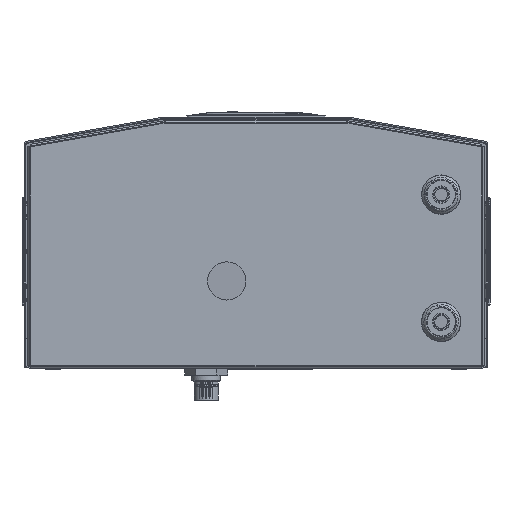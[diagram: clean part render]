
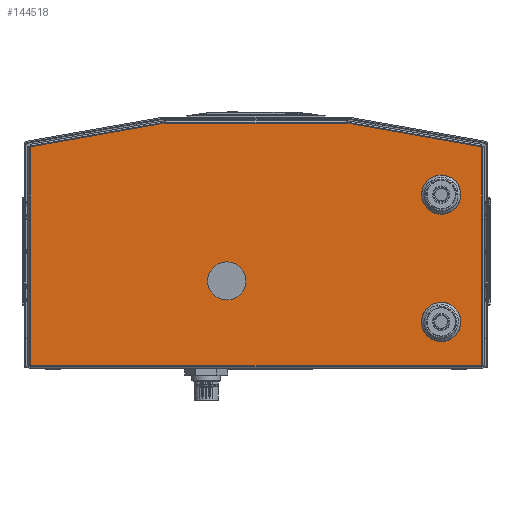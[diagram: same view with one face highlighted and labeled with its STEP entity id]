
A CAD part, front view. The second image highlights one B-rep face of the part: STEP entity #144518.
In plain terms, the highlighted planar face has unit normal (0, -1, 0).
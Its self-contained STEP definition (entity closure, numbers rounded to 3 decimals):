
#411 = DIRECTION ( 'NONE',  ( 0., 0., -1. ) ) ;
#2844 = VERTEX_POINT ( 'NONE', #69826 ) ;
#3081 = CARTESIAN_POINT ( 'NONE',  ( 194.79, -718.922, 0.787 ) ) ;
#8561 = VERTEX_POINT ( 'NONE', #3081 ) ;
#10794 = ORIENTED_EDGE ( 'NONE', *, *, #82602, .T. ) ;
#11460 = AXIS2_PLACEMENT_3D ( 'NONE', #69127, #179325, #84995 ) ;
#11906 = CARTESIAN_POINT ( 'NONE',  ( -78.607, -718.922, 210.368 ) ) ;
#12725 = VECTOR ( 'NONE', #107728, 1000. ) ;
#13072 = DIRECTION ( 'NONE',  ( -1., 0., 0. ) ) ;
#13189 = CARTESIAN_POINT ( 'NONE',  ( 194.79, -718.922, 0.787 ) ) ;
#15468 = CIRCLE ( 'NONE', #11460, 12.7 ) ;
#15564 = EDGE_LOOP ( 'NONE', ( #68278, #59619, #117425, #169448, #106210, #161923 ) ) ;
#16869 = CARTESIAN_POINT ( 'NONE',  ( 159.975, -718.922, 25.878 ) ) ;
#18679 = VECTOR ( 'NONE', #411, 1000. ) ;
#20139 = DIRECTION ( 'NONE',  ( 0., -1., 0. ) ) ;
#23602 = LINE ( 'NONE', #47361, #18679 ) ;
#25297 = CARTESIAN_POINT ( 'NONE',  ( 159.975, -718.922, 148.578 ) ) ;
#26598 = EDGE_CURVE ( 'NONE', #130406, #34125, #15468, .T. ) ;
#29815 = CIRCLE ( 'NONE', #204272, 12.7 ) ;
#32330 = VECTOR ( 'NONE', #13072, 1000. ) ;
#32351 = DIRECTION ( 'NONE',  ( 0., 1., 0. ) ) ;
#34125 = VERTEX_POINT ( 'NONE', #134713 ) ;
#37870 = FACE_BOUND ( 'NONE', #179755, .T. ) ;
#39218 = VECTOR ( 'NONE', #139427, 1000. ) ;
#41220 = DIRECTION ( 'NONE',  ( 0., 0., -1. ) ) ;
#44522 = VERTEX_POINT ( 'NONE', #47990 ) ;
#44740 = CIRCLE ( 'NONE', #139388, 16.51 ) ;
#46391 = VERTEX_POINT ( 'NONE', #16869 ) ;
#47361 = CARTESIAN_POINT ( 'NONE',  ( -194.79, -718.922, 189.89 ) ) ;
#47990 = CARTESIAN_POINT ( 'NONE',  ( 159.975, -718.922, 51.278 ) ) ;
#50486 = CARTESIAN_POINT ( 'NONE',  ( -194.79, -718.922, 189.882 ) ) ;
#51309 = AXIS2_PLACEMENT_3D ( 'NONE', #114601, #20139, #130395 ) ;
#56639 = AXIS2_PLACEMENT_3D ( 'NONE', #126740, #32351, #142607 ) ;
#56904 = EDGE_CURVE ( 'NONE', #34125, #130406, #121401, .T. ) ;
#59619 = ORIENTED_EDGE ( 'NONE', *, *, #106999, .T. ) ;
#68278 = ORIENTED_EDGE ( 'NONE', *, *, #97338, .T. ) ;
#69127 = CARTESIAN_POINT ( 'NONE',  ( 159.975, -718.922, 148.578 ) ) ;
#69826 = CARTESIAN_POINT ( 'NONE',  ( -25.247, -718.922, 90.49 ) ) ;
#71370 = VERTEX_POINT ( 'NONE', #50486 ) ;
#73476 = LINE ( 'NONE', #196409, #152299 ) ;
#75927 = CARTESIAN_POINT ( 'NONE',  ( -197., -718.922, 0.787 ) ) ;
#79848 = FACE_BOUND ( 'NONE', #135171, .T. ) ;
#82602 = EDGE_CURVE ( 'NONE', #2844, #108445, #44740, .T. ) ;
#83485 = ORIENTED_EDGE ( 'NONE', *, *, #129094, .F. ) ;
#84995 = DIRECTION ( 'NONE',  ( 0., 0., -1. ) ) ;
#85569 = DIRECTION ( 'NONE',  ( 0., 1., 0. ) ) ;
#85981 = EDGE_CURVE ( 'NONE', #87099, #164573, #158114, .T. ) ;
#86245 = DIRECTION ( 'NONE',  ( -0.985, 0., 0.174 ) ) ;
#87099 = VERTEX_POINT ( 'NONE', #113976 ) ;
#90039 = CARTESIAN_POINT ( 'NONE',  ( 159.975, -718.922, 38.578 ) ) ;
#91432 = AXIS2_PLACEMENT_3D ( 'NONE', #25297, #135581, #41220 ) ;
#91897 = CARTESIAN_POINT ( 'NONE',  ( -197., -718.922, 212.578 ) ) ;
#92272 = EDGE_CURVE ( 'NONE', #71370, #191097, #23602, .T. ) ;
#93273 = LINE ( 'NONE', #75927, #182022 ) ;
#97338 = EDGE_CURVE ( 'NONE', #8561, #113716, #133617, .T. ) ;
#105874 = DIRECTION ( 'NONE',  ( 0., 0., -1. ) ) ;
#106210 = ORIENTED_EDGE ( 'NONE', *, *, #92272, .T. ) ;
#106486 = ORIENTED_EDGE ( 'NONE', *, *, #26598, .F. ) ;
#106937 = DIRECTION ( 'NONE',  ( -1., 0., 0. ) ) ;
#106999 = EDGE_CURVE ( 'NONE', #113716, #87099, #73476, .T. ) ;
#107728 = DIRECTION ( 'NONE',  ( 0., 0., 1. ) ) ;
#107767 = DIRECTION ( 'NONE',  ( 0., 0., 1. ) ) ;
#108445 = VERTEX_POINT ( 'NONE', #184358 ) ;
#109647 = CIRCLE ( 'NONE', #51309, 12.7 ) ;
#110993 = EDGE_CURVE ( 'NONE', #46391, #44522, #109647, .T. ) ;
#113716 = VERTEX_POINT ( 'NONE', #156392 ) ;
#113976 = CARTESIAN_POINT ( 'NONE',  ( 78.607, -718.922, 210.368 ) ) ;
#114601 = CARTESIAN_POINT ( 'NONE',  ( 159.975, -718.922, 38.578 ) ) ;
#117425 = ORIENTED_EDGE ( 'NONE', *, *, #85981, .T. ) ;
#120421 = CIRCLE ( 'NONE', #56639, 16.51 ) ;
#121401 = CIRCLE ( 'NONE', #91432, 12.7 ) ;
#121474 = CARTESIAN_POINT ( 'NONE',  ( -194.79, -718.922, 0.787 ) ) ;
#121678 = FACE_BOUND ( 'NONE', #201997, .T. ) ;
#122217 = AXIS2_PLACEMENT_3D ( 'NONE', #91897, #202071, #107767 ) ;
#122686 = CARTESIAN_POINT ( 'NONE',  ( 78.607, -718.922, 210.368 ) ) ;
#123001 = LINE ( 'NONE', #11906, #39218 ) ;
#126740 = CARTESIAN_POINT ( 'NONE',  ( -25.247, -718.922, 73.98 ) ) ;
#128421 = CARTESIAN_POINT ( 'NONE',  ( 159.975, -718.922, 135.878 ) ) ;
#129094 = EDGE_CURVE ( 'NONE', #44522, #46391, #29815, .T. ) ;
#130395 = DIRECTION ( 'NONE',  ( 0., 0., -1. ) ) ;
#130406 = VERTEX_POINT ( 'NONE', #128421 ) ;
#133617 = LINE ( 'NONE', #13189, #12725 ) ;
#134713 = CARTESIAN_POINT ( 'NONE',  ( 159.975, -718.922, 161.278 ) ) ;
#135171 = EDGE_LOOP ( 'NONE', ( #10794, #140205 ) ) ;
#135581 = DIRECTION ( 'NONE',  ( 0., -1., 0. ) ) ;
#138703 = PLANE ( 'NONE',  #122217 ) ;
#139388 = AXIS2_PLACEMENT_3D ( 'NONE', #179913, #85569, #195715 ) ;
#139427 = DIRECTION ( 'NONE',  ( -0.985, 0., -0.174 ) ) ;
#140205 = ORIENTED_EDGE ( 'NONE', *, *, #200824, .T. ) ;
#142607 = DIRECTION ( 'NONE',  ( 0., 0., 1. ) ) ;
#142611 = CARTESIAN_POINT ( 'NONE',  ( -78.607, -718.922, 210.368 ) ) ;
#144518 = ADVANCED_FACE ( 'NONE', ( #79848, #37870, #121678, #200543 ), #138703, .F. ) ;
#152299 = VECTOR ( 'NONE', #86245, 1000. ) ;
#155899 = EDGE_CURVE ( 'NONE', #164573, #71370, #123001, .T. ) ;
#156392 = CARTESIAN_POINT ( 'NONE',  ( 194.79, -718.922, 189.882 ) ) ;
#158114 = LINE ( 'NONE', #122686, #32330 ) ;
#158215 = ORIENTED_EDGE ( 'NONE', *, *, #56904, .F. ) ;
#161923 = ORIENTED_EDGE ( 'NONE', *, *, #173525, .F. ) ;
#164573 = VERTEX_POINT ( 'NONE', #142611 ) ;
#169448 = ORIENTED_EDGE ( 'NONE', *, *, #155899, .T. ) ;
#173525 = EDGE_CURVE ( 'NONE', #8561, #191097, #93273, .T. ) ;
#178891 = ORIENTED_EDGE ( 'NONE', *, *, #110993, .F. ) ;
#179325 = DIRECTION ( 'NONE',  ( 0., -1., 0. ) ) ;
#179755 = EDGE_LOOP ( 'NONE', ( #106486, #158215 ) ) ;
#179913 = CARTESIAN_POINT ( 'NONE',  ( -25.247, -718.922, 73.98 ) ) ;
#182022 = VECTOR ( 'NONE', #106937, 1000. ) ;
#184358 = CARTESIAN_POINT ( 'NONE',  ( -25.247, -718.922, 57.47 ) ) ;
#191097 = VERTEX_POINT ( 'NONE', #121474 ) ;
#195715 = DIRECTION ( 'NONE',  ( 0., 0., 1. ) ) ;
#196409 = CARTESIAN_POINT ( 'NONE',  ( 194.798, -718.922, 189.88 ) ) ;
#200212 = DIRECTION ( 'NONE',  ( 0., -1., 0. ) ) ;
#200543 = FACE_OUTER_BOUND ( 'NONE', #15564, .T. ) ;
#200824 = EDGE_CURVE ( 'NONE', #108445, #2844, #120421, .T. ) ;
#201997 = EDGE_LOOP ( 'NONE', ( #178891, #83485 ) ) ;
#202071 = DIRECTION ( 'NONE',  ( 0., 1., 0. ) ) ;
#204272 = AXIS2_PLACEMENT_3D ( 'NONE', #90039, #200212, #105874 ) ;
